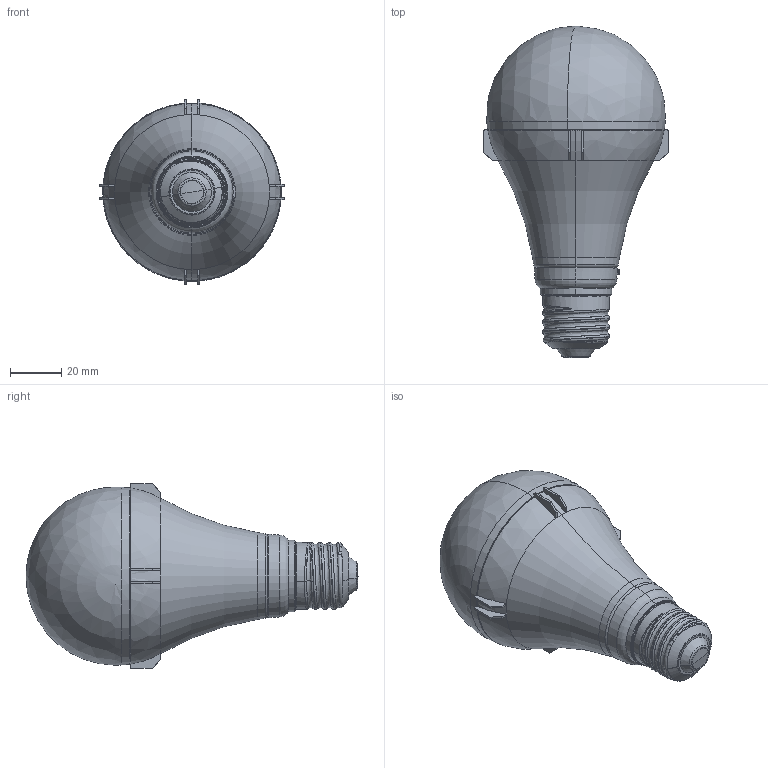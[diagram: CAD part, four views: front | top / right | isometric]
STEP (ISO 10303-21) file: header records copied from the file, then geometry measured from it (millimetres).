
FILE_DESCRIPTION(('FreeCAD Model'),'2;1');
FILE_NAME('Open CASCADE Shape Model','2024-08-30T09:56:37',( 'Lukas Balthasar Pank'),('Astera LED Technology GmbH'), 'Open CASCADE STEP processor 7.6','FreeCAD','Unknown');
FILE_SCHEMA(('AUTOMOTIVE_DESIGN { 1 0 10303 214 1 1 1 1 }'));
Length unit declared in the file: millimetre
Products named in the file (17): FP7+FP7-LRF+FP7-LDF_LunaBulb+LunaReflector+LunaDiffusor_3D-STEP; LunaBulb; Lamp cup-L; inner diffuser holder; release button; spring; LunaBulb_InnerDome; LunaBulb_E27; FP7-LRF+FP7-LDF; LunaReflector; Reflector White Look; reflector cup-; LunaDiffuser; Reflector cup
Assembly tree (18 placements, depth 4):
  FP7+FP7-LRF+FP7-LDF_LunaBulb+LunaReflector+LunaDiffusor_3D-STEP
    LunaBulb
      Lamp cup-L
      inner diffuser holder
      release button
      spring
        spring
        spring
      spring
        spring
        spring
    LunaBulb_InnerDome
    LunaBulb_E27
    FP7-LRF+FP7-LDF
      LunaReflector
        Reflector White Look
        reflector cup-
      LunaDiffuser
      Reflector cup
Bounding box: 72.07 x 129.6 x 72.07 mm (x, y, z)
Volume: 41623.8 mm3; surface area: 74748.4 mm2
Topology: 9 solids, 13 shells, 5159 faces, 14059 edges, 9299 vertices
Faces by surface type: bspline 2573, plane 1442, cylinder 895, cone 111, torus 92, sphere 38, revolution 8
Entity records: 221420 total; most frequent: CARTESIAN_POINT 113463, ORIENTED_EDGE 28074, EDGE_CURVE 14039, DIRECTION 12577, VERTEX_POINT 9291, B_SPLINE_CURVE_WITH_KNOTS 8839, FACE_BOUND 5548, EDGE_LOOP 5548
